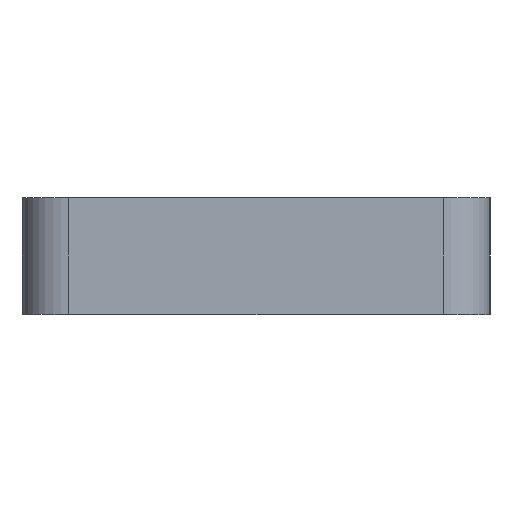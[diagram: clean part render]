
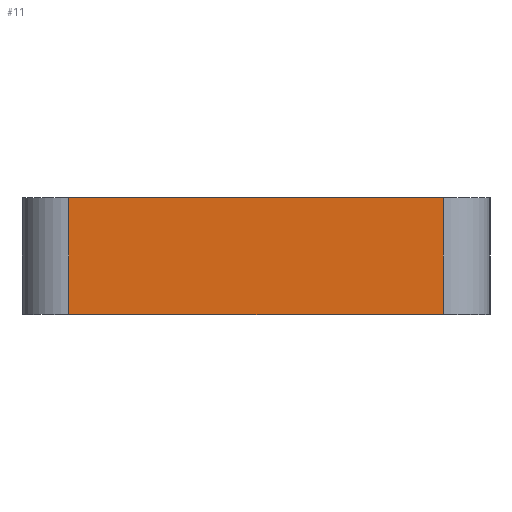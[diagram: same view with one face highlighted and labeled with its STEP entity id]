
A CAD part, left-side view. The second image highlights one B-rep face of the part: STEP entity #11.
In plain terms, the highlighted planar face has unit normal (-1, 0, 0).
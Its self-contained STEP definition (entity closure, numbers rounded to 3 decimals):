
#5 = VERTEX_POINT ( 'NONE', #383 ) ;
#10 = PLANE ( 'NONE',  #649 ) ;
#11 = ADVANCED_FACE ( 'NONE', ( #506 ), #10, .F. ) ;
#41 = DIRECTION ( 'NONE',  ( 0., 0., -1. ) ) ;
#49 = LINE ( 'NONE', #366, #660 ) ;
#51 = ORIENTED_EDGE ( 'NONE', *, *, #695, .F. ) ;
#95 = VECTOR ( 'NONE', #41, 1000. ) ;
#114 = EDGE_LOOP ( 'NONE', ( #226, #51, #158, #430 ) ) ;
#158 = ORIENTED_EDGE ( 'NONE', *, *, #309, .F. ) ;
#192 = CARTESIAN_POINT ( 'NONE',  ( 0., 2., 0. ) ) ;
#226 = ORIENTED_EDGE ( 'NONE', *, *, #634, .T. ) ;
#228 = CARTESIAN_POINT ( 'NONE',  ( 0., 2., 5. ) ) ;
#246 = VERTEX_POINT ( 'NONE', #352 ) ;
#269 = VERTEX_POINT ( 'NONE', #648 ) ;
#309 = EDGE_CURVE ( 'NONE', #246, #269, #49, .T. ) ;
#342 = VECTOR ( 'NONE', #662, 1000. ) ;
#350 = CARTESIAN_POINT ( 'NONE',  ( 0., 2., 5. ) ) ;
#352 = CARTESIAN_POINT ( 'NONE',  ( 0., 18., 5. ) ) ;
#366 = CARTESIAN_POINT ( 'NONE',  ( 0., 2., 5. ) ) ;
#377 = VERTEX_POINT ( 'NONE', #485 ) ;
#383 = CARTESIAN_POINT ( 'NONE',  ( 0., 18., 0. ) ) ;
#392 = EDGE_CURVE ( 'NONE', #246, #5, #516, .T. ) ;
#411 = VECTOR ( 'NONE', #515, 1000. ) ;
#430 = ORIENTED_EDGE ( 'NONE', *, *, #392, .T. ) ;
#442 = CARTESIAN_POINT ( 'NONE',  ( 0., 18., 5. ) ) ;
#485 = CARTESIAN_POINT ( 'NONE',  ( 0., 2., 0. ) ) ;
#491 = DIRECTION ( 'NONE',  ( 0., -1., 0. ) ) ;
#500 = DIRECTION ( 'NONE',  ( 1., 0., 0. ) ) ;
#501 = DIRECTION ( 'NONE',  ( 0., 0., -1. ) ) ;
#506 = FACE_OUTER_BOUND ( 'NONE', #114, .T. ) ;
#515 = DIRECTION ( 'NONE',  ( 0., -1., 0. ) ) ;
#516 = LINE ( 'NONE', #442, #342 ) ;
#543 = LINE ( 'NONE', #350, #95 ) ;
#634 = EDGE_CURVE ( 'NONE', #5, #377, #651, .T. ) ;
#648 = CARTESIAN_POINT ( 'NONE',  ( 0., 2., 5. ) ) ;
#649 = AXIS2_PLACEMENT_3D ( 'NONE', #228, #500, #501 ) ;
#651 = LINE ( 'NONE', #192, #411 ) ;
#660 = VECTOR ( 'NONE', #491, 1000. ) ;
#662 = DIRECTION ( 'NONE',  ( 0., 0., -1. ) ) ;
#695 = EDGE_CURVE ( 'NONE', #269, #377, #543, .T. ) ;
